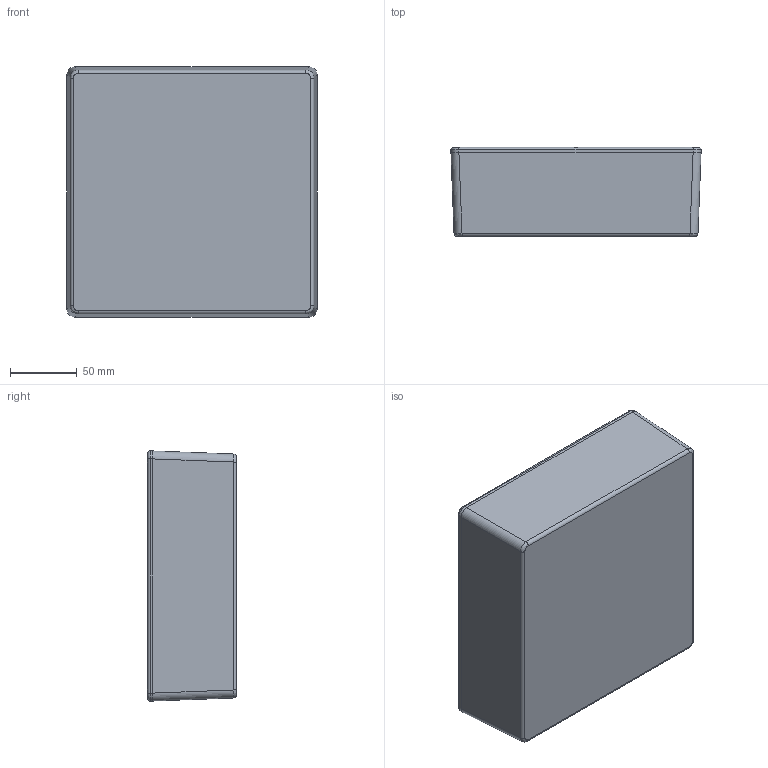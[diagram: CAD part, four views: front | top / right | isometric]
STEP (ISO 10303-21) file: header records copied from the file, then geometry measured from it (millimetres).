
FILE_DESCRIPTION(/* description */ (''),/* implementation_level */ '2;1');
FILE_NAME(/* name */ 'E:\Eng\Customer Service\Drawings\1590\STEP\1590F\1590F.iam.stp',/* time_stamp */ '2014-07-28T13:47:41-04:00',/* author */ ('avernon'),/* organization */ (''),/* preprocessor_version */ 'ST-DEVELOPER v15.2',/* originating_system */ 'Autodesk Inventor 2014',/* authorisation */ '');
FILE_SCHEMA (('AUTOMOTIVE_DESIGN { 1 0 10303 214 3 1 1 }'));
Products named in the file (4): 1590F Box; 1590F Lid; #21534; 1590F
Bounding box: 188 x 67 x 188 mm (x, y, z)
Volume: 304446.8 mm3; surface area: 235968 mm2
Topology: 10 solids, 10 shells, 721 faces, 1899 edges, 1234 vertices
Faces by surface type: plane 334, bspline 183, cone 104, cylinder 64, torus 36
Full cylindrical faces by diameter (mm): 2.642 x8, 3.378 x8, 3.9 x8, 4 x8
Entity records: 21470 total; most frequent: CARTESIAN_POINT 9147, ORIENTED_EDGE 2772, DIRECTION 2117, EDGE_CURVE 1386, VERTEX_POINT 909, AXIS2_PLACEMENT_3D 752, EDGE_LOOP 625, LINE 613
